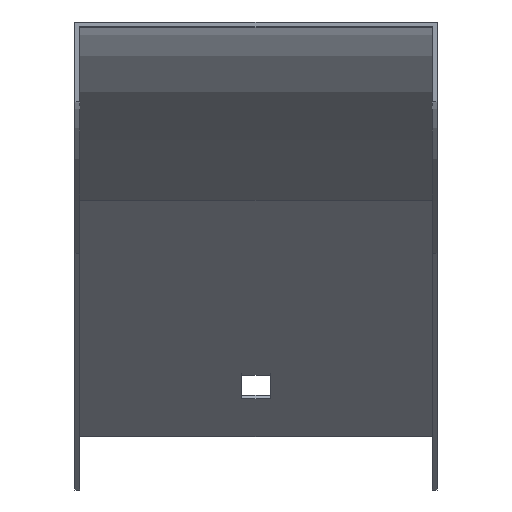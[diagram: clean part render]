
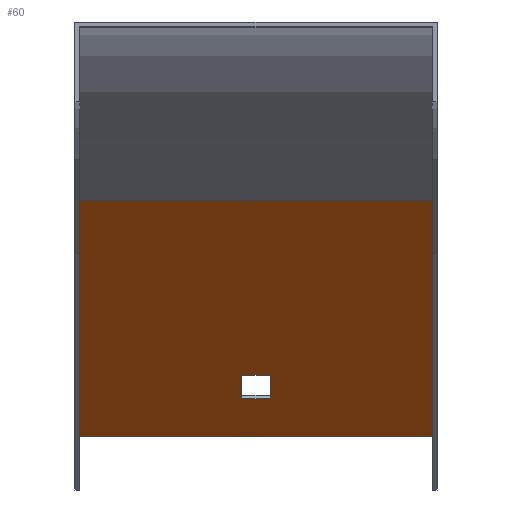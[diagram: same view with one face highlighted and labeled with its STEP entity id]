
A CAD part, top view. The second image highlights one B-rep face of the part: STEP entity #60.
In plain terms, the highlighted planar face has unit normal (0, -0.707, 0.707).
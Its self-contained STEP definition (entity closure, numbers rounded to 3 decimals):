
#1 = EDGE_CURVE ( 'NONE', #674, #476, #524, .T. ) ;
#2 = CARTESIAN_POINT ( 'NONE',  ( 37.5, -37.612, -159.388 ) ) ;
#5 = CARTESIAN_POINT ( 'NONE',  ( 38.5, -37.612, -159.388 ) ) ;
#23 = CARTESIAN_POINT ( 'NONE',  ( -37.5, -37.612, -159.388 ) ) ;
#32 = VERTEX_POINT ( 'NONE', #215 ) ;
#34 = DIRECTION ( 'NONE',  ( -1., 0., 0. ) ) ;
#49 = VERTEX_POINT ( 'NONE', #671 ) ;
#60 = ADVANCED_FACE ( 'NONE', ( #269, #140 ), #604, .T. ) ;
#64 = ORIENTED_EDGE ( 'NONE', *, *, #571, .T. ) ;
#66 = VECTOR ( 'NONE', #378, 1000. ) ;
#81 = DIRECTION ( 'NONE',  ( 0., 0.707, 0.707 ) ) ;
#86 = EDGE_CURVE ( 'NONE', #49, #421, #692, .T. ) ;
#89 = ORIENTED_EDGE ( 'NONE', *, *, #239, .F. ) ;
#96 = AXIS2_PLACEMENT_3D ( 'NONE', #5, #157, #744 ) ;
#107 = CARTESIAN_POINT ( 'NONE',  ( 38.5, -37.612, -159.388 ) ) ;
#140 = FACE_BOUND ( 'NONE', #267, .T. ) ;
#142 = CARTESIAN_POINT ( 'NONE',  ( 37.5, -87.816, -209.593 ) ) ;
#151 = ORIENTED_EDGE ( 'NONE', *, *, #86, .T. ) ;
#157 = DIRECTION ( 'NONE',  ( 0., -0.707, 0.707 ) ) ;
#166 = EDGE_CURVE ( 'NONE', #476, #525, #229, .T. ) ;
#185 = DIRECTION ( 'NONE',  ( 1., 0., 0. ) ) ;
#193 = VECTOR ( 'NONE', #234, 1000. ) ;
#199 = DIRECTION ( 'NONE',  ( 0., 0.707, 0.707 ) ) ;
#201 = ORIENTED_EDGE ( 'NONE', *, *, #760, .T. ) ;
#212 = ORIENTED_EDGE ( 'NONE', *, *, #271, .T. ) ;
#215 = CARTESIAN_POINT ( 'NONE',  ( -37.5, -87.816, -209.593 ) ) ;
#219 = ORIENTED_EDGE ( 'NONE', *, *, #1, .T. ) ;
#229 = LINE ( 'NONE', #107, #193 ) ;
#234 = DIRECTION ( 'NONE',  ( -1., 0., 0. ) ) ;
#235 = VERTEX_POINT ( 'NONE', #840 ) ;
#239 = EDGE_CURVE ( 'NONE', #674, #32, #623, .T. ) ;
#244 = LINE ( 'NONE', #781, #650 ) ;
#267 = EDGE_LOOP ( 'NONE', ( #212, #64, #201, #151 ) ) ;
#269 = FACE_OUTER_BOUND ( 'NONE', #544, .T. ) ;
#271 = EDGE_CURVE ( 'NONE', #421, #235, #580, .T. ) ;
#276 = CARTESIAN_POINT ( 'NONE',  ( 3., -79.685, -201.461 ) ) ;
#278 = CARTESIAN_POINT ( 'NONE',  ( -3., -37.612, -159.388 ) ) ;
#338 = CARTESIAN_POINT ( 'NONE',  ( 3., -37.612, -159.388 ) ) ;
#360 = VERTEX_POINT ( 'NONE', #411 ) ;
#378 = DIRECTION ( 'NONE',  ( -1., 0., 0. ) ) ;
#396 = VECTOR ( 'NONE', #199, 1000. ) ;
#397 = VECTOR ( 'NONE', #81, 1000. ) ;
#411 = CARTESIAN_POINT ( 'NONE',  ( -3., -74.735, -196.511 ) ) ;
#421 = VERTEX_POINT ( 'NONE', #276 ) ;
#424 = CARTESIAN_POINT ( 'NONE',  ( 37.5, -37.612, -159.388 ) ) ;
#427 = VECTOR ( 'NONE', #742, 1000. ) ;
#476 = VERTEX_POINT ( 'NONE', #424 ) ;
#524 = LINE ( 'NONE', #2, #396 ) ;
#525 = VERTEX_POINT ( 'NONE', #23 ) ;
#537 = LINE ( 'NONE', #278, #397 ) ;
#544 = EDGE_LOOP ( 'NONE', ( #596, #89, #219, #669 ) ) ;
#552 = VECTOR ( 'NONE', #863, 1000. ) ;
#571 = EDGE_CURVE ( 'NONE', #235, #360, #537, .T. ) ;
#580 = LINE ( 'NONE', #585, #66 ) ;
#585 = CARTESIAN_POINT ( 'NONE',  ( 38.5, -79.685, -201.461 ) ) ;
#590 = CARTESIAN_POINT ( 'NONE',  ( -37.5, -37.612, -159.388 ) ) ;
#596 = ORIENTED_EDGE ( 'NONE', *, *, #746, .F. ) ;
#604 = PLANE ( 'NONE',  #96 ) ;
#623 = LINE ( 'NONE', #767, #750 ) ;
#650 = VECTOR ( 'NONE', #185, 1000. ) ;
#669 = ORIENTED_EDGE ( 'NONE', *, *, #166, .T. ) ;
#671 = CARTESIAN_POINT ( 'NONE',  ( 3., -74.735, -196.511 ) ) ;
#674 = VERTEX_POINT ( 'NONE', #142 ) ;
#692 = LINE ( 'NONE', #338, #427 ) ;
#742 = DIRECTION ( 'NONE',  ( 0., -0.707, -0.707 ) ) ;
#744 = DIRECTION ( 'NONE',  ( 0., -0.707, -0.707 ) ) ;
#746 = EDGE_CURVE ( 'NONE', #32, #525, #797, .T. ) ;
#750 = VECTOR ( 'NONE', #34, 1000. ) ;
#760 = EDGE_CURVE ( 'NONE', #360, #49, #244, .T. ) ;
#767 = CARTESIAN_POINT ( 'NONE',  ( 38.5, -87.816, -209.593 ) ) ;
#781 = CARTESIAN_POINT ( 'NONE',  ( 38.5, -74.735, -196.511 ) ) ;
#797 = LINE ( 'NONE', #590, #552 ) ;
#840 = CARTESIAN_POINT ( 'NONE',  ( -3., -79.685, -201.461 ) ) ;
#863 = DIRECTION ( 'NONE',  ( 0., 0.707, 0.707 ) ) ;
